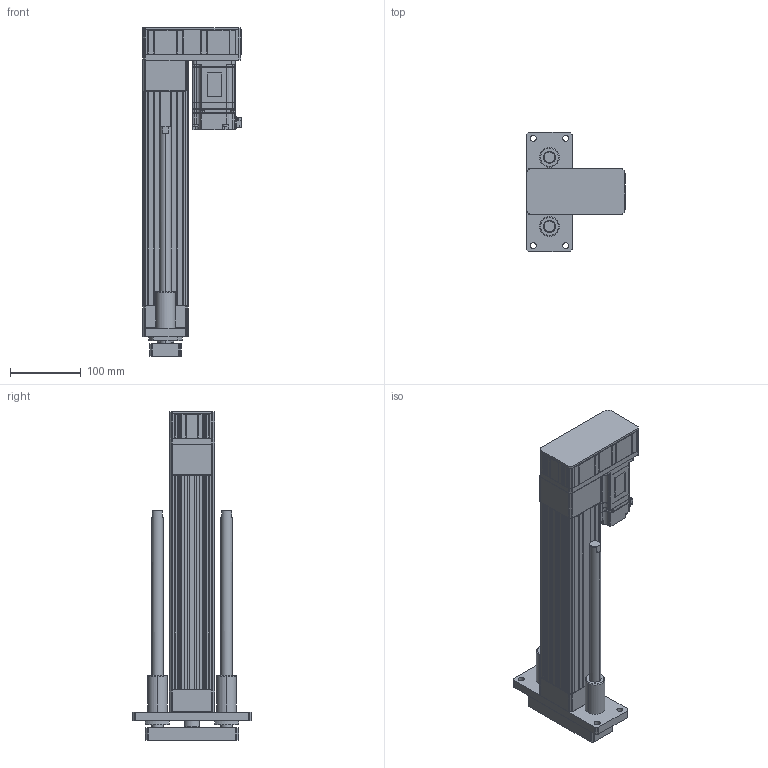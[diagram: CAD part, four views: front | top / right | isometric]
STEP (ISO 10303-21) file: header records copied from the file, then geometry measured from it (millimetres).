
FILE_DESCRIPTION (( 'STEP AP203' ), '1' );
FILE_NAME ('ANS065R-GP200-05(10)(20)-W40.STEP', '2019-03-01T08:53:35', ( 'user' ), ( '' ), 'SwSTEP 2.0', 'SolidWorks 2013', '' );
FILE_SCHEMA (( 'CONFIG_CONTROL_DESIGN' ));
Length unit declared in the file: millimetre
Products named in the file (4): ANS065R GP200 VER2; ANS065 ROD ST200 G; sgmjv_04a_a21; ANS065R-GP200-05(10)(20)-W40
Assembly tree (3 placements, depth 2):
  ANS065R-GP200-05(10)(20)-W40
    ANS065R GP200 VER2
    ANS065 ROD ST200 G
    sgmjv_04a_a21
Bounding box: 140.3 x 170 x 466 mm (x, y, z)
Volume: 1813682.4 mm3; surface area: 437787.3 mm2
Topology: 3 solids, 19 shells, 1720 faces, 4439 edges, 2846 vertices
Faces by surface type: plane 1030, cylinder 504, cone 182, torus 4
Entity records: 52345 total; most frequent: CARTESIAN_POINT 9317, DIRECTION 8915, ORIENTED_EDGE 8830, EDGE_CURVE 4415, VECTOR 3163, LINE 3163, AXIS2_PLACEMENT_3D 2876, VERTEX_POINT 2846
